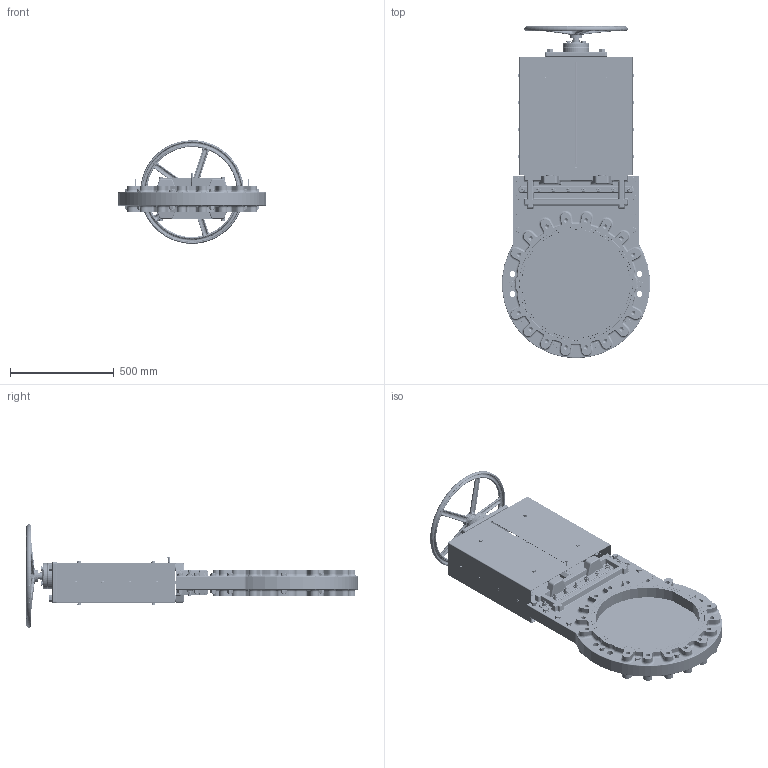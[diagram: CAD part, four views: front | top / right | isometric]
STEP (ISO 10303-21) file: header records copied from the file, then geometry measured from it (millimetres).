
FILE_DESCRIPTION(/* description */ (''),/* implementation_level */ '2;1');
FILE_NAME(/* name */ 'Non-rising stem knife gate valve with handwheel DN500-10带护罩.stp',/* time_stamp */ '2025-04-07T14:59:40+08:00',/* author */ (''),/* organization */ (''),/* preprocessor_version */ 'ST-DEVELOPER v15',/* originating_system */ 'SIEMENS PLM Software NX 10.0',/* authorisation */ '');
FILE_SCHEMA (('AP203_CONFIGURATION_CONTROLLED_3D_DESIGN_OF_MECHANICAL_PARTS_AND_ASSEMBLIES_MIM_LF { 1 0 10303 403 2 1 2}'));
Products named in the file (1): Admi27C0C158bts8
Bounding box: 712.34 x 1600.43 x 499.97 mm (x, y, z)
Volume: 40500715.5 mm3; surface area: 4572131.7 mm2
Topology: 1 solids, 67 shells, 4333 faces, 10456 edges, 6477 vertices
Faces by surface type: plane 1755, cylinder 1012, bspline 486, cone 450, extrusion 306, torus 184, sphere 140
Full cylindrical faces by diameter (mm): 6 x1, 8 x17, 8.4 x16, 8.5 x8, 9 x1, 9.5 x16, 10 x9, 10.5 x9, 11 x8, 11.053 x4, 11.4 x8, 11.5 x1, 12 x40, 12.5 x16, 13 x20, 15.053 x16, 15.6 x9, 16 x50, 17 x30, 17.2 x4, 17.5 x8, 19.053 x4, 20 x16, 21 x44, 22 x32, 23 x1, 24 x20, 27 x4, 28 x4, 29 x4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
Entity records: 148149 total; most frequent: CARTESIAN_POINT 59467, ORIENTED_EDGE 18264, DIRECTION 16272, EDGE_CURVE 9132, AXIS2_PLACEMENT_3D 6532, VERTEX_POINT 6156, EDGE_LOOP 5710, ADVANCED_FACE 4333
